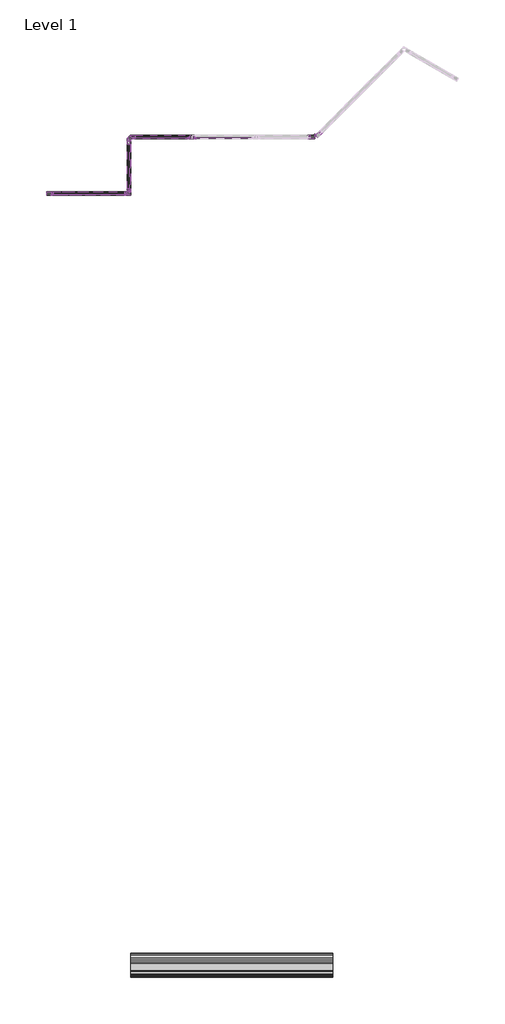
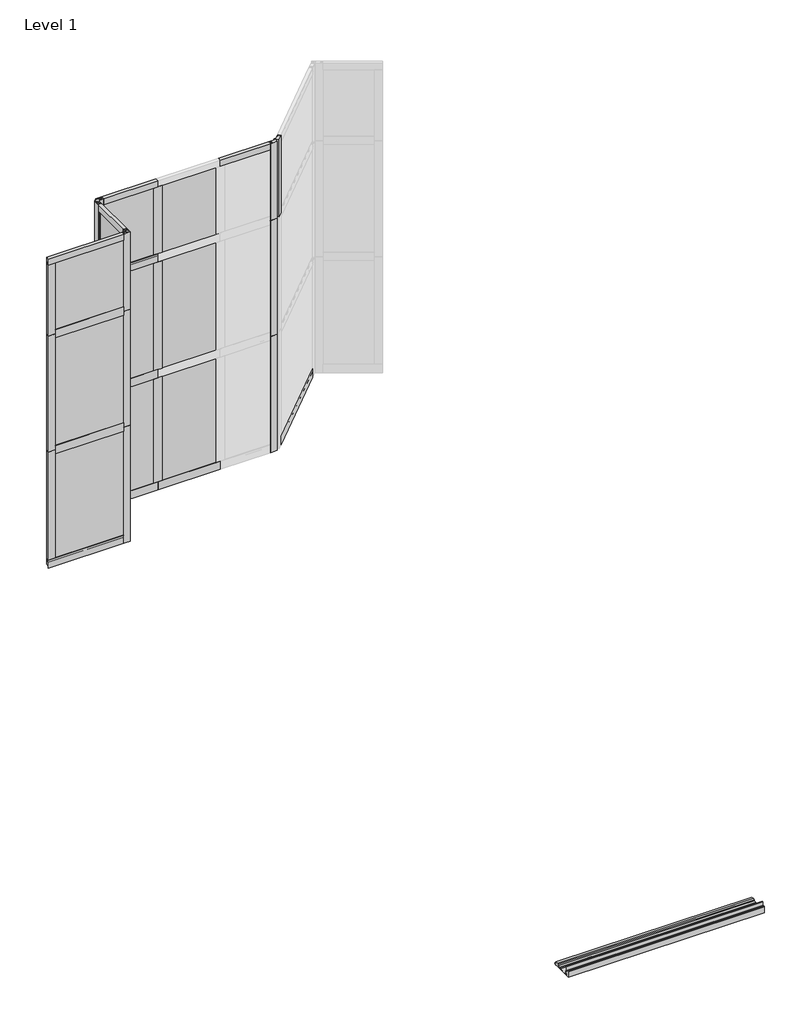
# One storey, part 1 of 2: 36 members, 13 plates.
"""IFC4 building model written with IfcOpenShell, lengths in millimetres."""

from ifc_helpers import new_model, si_unit, origin, place, context, project, spatial, transform, mapped, element, save
from components import rectangular_mullion_64176b1e, rectangular_mullion_0f93f0b6, rectangular_mullion_71dfe0ef, rectangular_mullion_2e643e02, rectangular_mullion_dccfdf45, rectangular_mullion_quickpanel_absolute_general_horizontal_ecc8f6d4, rectangular_mullion_quickpanel_absolute_general_horizontal_9559737d, rectangular_mullion_quickpanel_absolute_general_horizontal_3d351512, rectangular_mullion_quickpanel_absolute_general_horizontal_ca4b5e77, rectangular_mullion_quickpanel_absolute_general_horizontal_192f8292, rectangular_mullion_quickpanel_absolute_general_horizontal_1130ff88, rectangular_mullion_quickpanel_absolute_general_horizontal_bc66b378, rectangular_mullion_quickpanel_absolute_general_horizontal_31412796, rectangular_mullion_quickpanel_absolute_inside_corner_trim_4e34491d, rectangular_mullion_quickpanel_absolute_inside_corner_trim_36ff3354, rectangular_mullion_quickpanel_absolute_inside_corner_trim_136b32a6, rectangular_mullion_quickpanel_absolute_outside_corner_trim_44ce5f77, rectangular_mullion_quickpanel_absolute_outside_corner_trim_5e5925ea, rectangular_mullion_quickpanel_absolute_outside_corner_trim_b60b09aa, rectangular_mullion_quickpanel_absolute_outside_corner_trim_eb6b40db, rectangular_mullion_quickpanel_absolute_outside_corner_trim_54773243, rectangular_mullion_quickpanel_absolute_outside_corner_trim_e17033c3, rectangular_mullion_quickpanel_absolute_perforated_soffit_d645d22b, rectangular_mullion_quickpanel_absolute_soffit_termination_b88b2211, rectangular_mullion_quickpanel_absolute_soffit_termination_9e7e0100, rectangular_mullion_quickpanel_absolute_soffit_termination_cf8f7efe, rectangular_mullion_quickpanel_absolute_soffit_termination_899e9dfb, rectangular_mullion_quickpanel_absolute_soffit_termination_206f8a84, rectangular_mullion_quickpanel_absolute_vertical_main_wall_8224364b, rectangular_mullion_quickpanel_absolute_vertical_main_wall_ff86f56e, rectangular_mullion_quickpanel_absolute_vertical_termination_5774e4c7, rectangular_mullion_quickpanel_absolute_vertical_termination_4b9c5ec9, rectangular_mullion_quickpanel_absolute_vertical_termination_3a699df9, quickpanel_4mm_acm_panel_4mm_acm_d2320506, quickpanel_4mm_acm_panel_4mm_acm_03b4451d, quickpanel_4mm_acm_panel_4mm_acm_35878509, quickpanel_4mm_acm_panel_4mm_acm_83a7dec8, quickpanel_4mm_acm_panel_4mm_acm_2b135999, quickpanel_4mm_acm_panel_4mm_acm_ec2d5cac, quickpanel_4mm_acm_panel_4mm_acm_bf85fa8f, quickpanel_4mm_acm_panel_4mm_acm_0c18de2a, quickpanel_4mm_acm_panel_4mm_acm_73361369, quickpanel_4mm_acm_panel_4mm_acm_ccc70f18, quickpanel_4mm_acm_panel_4mm_acm_afee9873, quickpanel_4mm_acm_panel_4mm_acm_e8283b51, quickpanel_perforated_soffit_strip_qp_25s_perforated_soffit_2bb89925

model = new_model("IFC4")

# Units and contexts
model_context = context("Model", 3, world=origin())
ifc_project = project(units=[si_unit("LENGTHUNIT", "METRE", prefix="MILLI")], contexts=[model_context])

# Site, building, storey
site = spatial("IfcSite", under=ifc_project)
building = spatial("IfcBuilding", under=site)
storey = spatial("IfcBuildingStorey", under=building, Name="Level 1", Elevation=0.0)

# Members
placement = place(None, origin())
rectangular_mullion_shape = rectangular_mullion_64176b1e(model_context)
element("IfcMember", 1, ObjectType="Rectangular Mullion : QuickPanel-Absolute_Multi-Angle-Outside-Corner-Trim-Left", at=placement, inside=storey, context=model_context, shape_type="MappedRepresentation", body=[
    mapped(rectangular_mullion_shape, transform((-497.1888824, 1940.7852714, 2032.0), x_axis=(-0.7071067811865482, -0.7071067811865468, 0.0), y_axis=(0.7071067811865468, -0.7071067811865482, 0.0), z_axis=(0.0, 0.0, 1.0))),
])
rectangular_mullion_2_shape = rectangular_mullion_0f93f0b6(model_context)
element("IfcMember", 2, ObjectType="Rectangular Mullion : QuickPanel-Absolute_Multi-Angle-Outside-Corner-Trim-Right", at=placement, inside=storey, context=model_context, shape_type="MappedRepresentation", body=[
    mapped(rectangular_mullion_2_shape, transform((-497.6661056, 1940.610475, 0.0), x_axis=(1.0, 0.0, 0.0), y_axis=(0.0, -1.0, 0.0), z_axis=(0.0, 0.0, -1.0))),
])
rectangular_mullion_3_shape = rectangular_mullion_71dfe0ef(model_context)
element("IfcMember", 3, ObjectType="Rectangular Mullion : QuickPanel-Absolute_Multi-Angle-Outside-Corner-Trim-Right", at=placement, inside=storey, context=model_context, shape_type="MappedRepresentation", body=[
    mapped(rectangular_mullion_3_shape, transform((-497.6661056, 1940.610475, 763.2962426), x_axis=(1.0, 0.0, 0.0), y_axis=(0.0, -1.0, 0.0), z_axis=(0.0, 0.0, -1.0))),
])
rectangular_mullion_4_shape = rectangular_mullion_2e643e02(model_context)
element("IfcMember", 4, ObjectType="Rectangular Mullion : QuickPanel-Absolute_Multi-Angle-Outside-Corner-Trim-Right", at=placement, inside=storey, context=model_context, shape_type="MappedRepresentation", body=[
    mapped(rectangular_mullion_4_shape, transform((-497.6661056, 1940.610475, 1525.2962426), x_axis=(1.0, 0.0, 0.0), y_axis=(0.0, -1.0, 0.0), z_axis=(0.0, 0.0, -1.0))),
])
rectangular_mullion_5_shape = rectangular_mullion_dccfdf45(model_context)
element("IfcMember", 5, ObjectType="Rectangular Mullion : QuickPanel-Absolute_Projecting-Window-Jamb-Trim-Right", at=placement, inside=storey, context=model_context, shape_type="MappedRepresentation", body=[
    mapped(rectangular_mullion_5_shape, transform((-1243.2812701, 1940.610475, 791.7293373), x_axis=(1.0, 0.0, 0.0), y_axis=(0.0, -1.0, 0.0), z_axis=(0.0, 0.0, -1.0))),
])
rectangular_mullion_quickpanel_absolute_general_horizontal_shape = rectangular_mullion_quickpanel_absolute_general_horizontal_ecc8f6d4(model_context)
element("IfcMember", 6, ObjectType="Rectangular Mullion : QuickPanel-Absolute_General-Horizontal-Trim", at=placement, inside=storey, context=model_context, shape_type="MappedRepresentation", body=[
    mapped(rectangular_mullion_quickpanel_absolute_general_horizontal_shape, transform((-464.1603732, 1973.8137806, 0.0), x_axis=(0.0, 0.0, -1.0), y_axis=(0.7071067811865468, -0.7071067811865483, 0.0), z_axis=(-0.7071067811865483, -0.7071067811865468, 0.0))),
])
rectangular_mullion_quickpanel_absolute_general_horizontal_2_shape = rectangular_mullion_quickpanel_absolute_general_horizontal_9559737d(model_context)
element("IfcMember", 7, ObjectType="Rectangular Mullion : QuickPanel-Absolute_General-Horizontal-Trim", at=placement, inside=storey, context=model_context, shape_type="MappedRepresentation", body=[
    mapped(rectangular_mullion_quickpanel_absolute_general_horizontal_2_shape, transform((-1581.6698491, 1940.610475, 0.0), x_axis=(0.0, 0.0, -1.0), y_axis=(0.0, -1.0, 0.0), z_axis=(-1.0, 0.0, 0.0))),
])
rectangular_mullion_quickpanel_absolute_general_horizontal_3_shape = rectangular_mullion_quickpanel_absolute_general_horizontal_3d351512(model_context)
element("IfcMember", 8, ObjectType="Rectangular Mullion : QuickPanel-Absolute_General-Horizontal-Trim", at=placement, inside=storey, context=model_context, shape_type="MappedRepresentation", body=[
    mapped(rectangular_mullion_quickpanel_absolute_general_horizontal_3_shape, transform((-1243.2812701, 1940.610475, 763.2962426), x_axis=(0.0, 0.0, 1.0), y_axis=(0.0, -1.0, 0.0), z_axis=(1.0, 0.0, 0.0))),
])
element("IfcMember", 9, ObjectType="Rectangular Mullion : QuickPanel-Absolute_General-Horizontal-Trim", at=placement, inside=storey, context=model_context, shape_type="MappedRepresentation", body=[
    mapped(rectangular_mullion_quickpanel_absolute_general_horizontal_3_shape, transform((-1243.2812701, 1940.610475, 1525.2962426), x_axis=(0.0, 0.0, 1.0), y_axis=(0.0, -1.0, 0.0), z_axis=(1.0, 0.0, 0.0))),
])
rectangular_mullion_quickpanel_absolute_general_horizontal_4_shape = rectangular_mullion_quickpanel_absolute_general_horizontal_ca4b5e77(model_context)
element("IfcMember", 10, ObjectType="Rectangular Mullion : QuickPanel-Absolute_General-Horizontal-Trim", at=placement, inside=storey, context=model_context, shape_type="MappedRepresentation", body=[
    mapped(rectangular_mullion_quickpanel_absolute_general_horizontal_4_shape, transform((-1243.2812701, 1940.610475, 0.0), x_axis=(0.0, 0.0, -1.0), y_axis=(0.0, -1.0, 0.0), z_axis=(-1.0, 0.0, 0.0))),
])
rectangular_mullion_quickpanel_absolute_general_horizontal_5_shape = rectangular_mullion_quickpanel_absolute_general_horizontal_192f8292(model_context)
element("IfcMember", 11, ObjectType="Rectangular Mullion : QuickPanel-Absolute_General-Horizontal-Trim", at=placement, inside=storey, context=model_context, shape_type="MappedRepresentation", body=[
    mapped(rectangular_mullion_quickpanel_absolute_general_horizontal_5_shape, transform((-1652.6092631, 1599.3797292, 0.0), x_axis=(0.0, 0.0, -1.0), y_axis=(0.0, 1.0, 0.0), z_axis=(1.0, 0.0, 0.0))),
])
rectangular_mullion_quickpanel_absolute_general_horizontal_6_shape = rectangular_mullion_quickpanel_absolute_general_horizontal_1130ff88(model_context)
element("IfcMember", 12, ObjectType="Rectangular Mullion : QuickPanel-Absolute_General-Horizontal-Trim", at=placement, inside=storey, context=model_context, shape_type="MappedRepresentation", body=[
    mapped(rectangular_mullion_quickpanel_absolute_general_horizontal_6_shape, transform((-2078.9781647, 1599.3797292, 763.2962426), x_axis=(0.0, 0.0, 1.0), y_axis=(0.0, 1.0, 0.0), z_axis=(-1.0, 0.0, 0.0))),
])
element("IfcMember", 13, ObjectType="Rectangular Mullion : QuickPanel-Absolute_General-Horizontal-Trim", at=placement, inside=storey, context=model_context, shape_type="MappedRepresentation", body=[
    mapped(rectangular_mullion_quickpanel_absolute_general_horizontal_6_shape, transform((-2078.9781647, 1599.3797292, 1525.2962426), x_axis=(0.0, 0.0, 1.0), y_axis=(0.0, 1.0, 0.0), z_axis=(-1.0, 0.0, 0.0))),
])
rectangular_mullion_quickpanel_absolute_general_horizontal_7_shape = rectangular_mullion_quickpanel_absolute_general_horizontal_bc66b378(model_context)
element("IfcMember", 14, ObjectType="Rectangular Mullion : QuickPanel-Absolute_General-Horizontal-Trim", at=placement, inside=storey, context=model_context, shape_type="MappedRepresentation", body=[
    mapped(rectangular_mullion_quickpanel_absolute_general_horizontal_7_shape, transform((-1625.8597137, 1626.1292786, 0.0), x_axis=(0.0, 0.0, -1.0), y_axis=(1.0, 0.0, 0.0), z_axis=(0.0, -1.0, 0.0))),
])
rectangular_mullion_quickpanel_absolute_general_horizontal_8_shape = rectangular_mullion_quickpanel_absolute_general_horizontal_31412796(model_context)
element("IfcMember", 15, ObjectType="Rectangular Mullion : QuickPanel-Absolute_General-Horizontal-Trim", at=placement, inside=storey, context=model_context, shape_type="MappedRepresentation", body=[
    mapped(rectangular_mullion_quickpanel_absolute_general_horizontal_8_shape, transform((-1625.8597137, 1896.4194406, 763.2962426), x_axis=(0.0, 0.0, 1.0), y_axis=(1.0, 0.0, 0.0), z_axis=(0.0, 1.0, 0.0))),
])
element("IfcMember", 16, ObjectType="Rectangular Mullion : QuickPanel-Absolute_General-Horizontal-Trim", at=placement, inside=storey, context=model_context, shape_type="MappedRepresentation", body=[
    mapped(rectangular_mullion_quickpanel_absolute_general_horizontal_8_shape, transform((-1625.8597137, 1896.4194406, 1525.2962426), x_axis=(0.0, 0.0, 1.0), y_axis=(1.0, 0.0, 0.0), z_axis=(0.0, 1.0, 0.0))),
])
rectangular_mullion_quickpanel_absolute_inside_corner_trim_shape = rectangular_mullion_quickpanel_absolute_inside_corner_trim_4e34491d(model_context)
element("IfcMember", 17, ObjectType="Rectangular Mullion : QuickPanel-Absolute_Inside-Corner-Trim-Left", at=placement, inside=storey, context=model_context, shape_type="MappedRepresentation", body=[
    mapped(rectangular_mullion_quickpanel_absolute_inside_corner_trim_shape, transform((-1634.3985952, 1940.610475, 2032.0), x_axis=(-1.0, 0.0, 0.0), y_axis=(0.0, -1.0, 0.0), z_axis=(0.0, 0.0, 1.0))),
])
rectangular_mullion_quickpanel_absolute_inside_corner_trim_2_shape = rectangular_mullion_quickpanel_absolute_inside_corner_trim_36ff3354(model_context)
element("IfcMember", 18, ObjectType="Rectangular Mullion : QuickPanel-Absolute_Inside-Corner-Trim-Left", at=placement, inside=storey, context=model_context, shape_type="MappedRepresentation", body=[
    mapped(rectangular_mullion_quickpanel_absolute_inside_corner_trim_2_shape, transform((-1634.3985952, 1940.610475, 763.2962426), x_axis=(-1.0, 0.0, 0.0), y_axis=(0.0, -1.0, 0.0), z_axis=(0.0, 0.0, 1.0))),
])
rectangular_mullion_quickpanel_absolute_inside_corner_trim_3_shape = rectangular_mullion_quickpanel_absolute_inside_corner_trim_136b32a6(model_context)
element("IfcMember", 19, ObjectType="Rectangular Mullion : QuickPanel-Absolute_Inside-Corner-Trim-Left", at=placement, inside=storey, context=model_context, shape_type="MappedRepresentation", body=[
    mapped(rectangular_mullion_quickpanel_absolute_inside_corner_trim_3_shape, transform((-1634.3985952, 1940.610475, 1525.2962426), x_axis=(-1.0, 0.0, 0.0), y_axis=(0.0, -1.0, 0.0), z_axis=(0.0, 0.0, 1.0))),
])
rectangular_mullion_quickpanel_absolute_outside_corner_trim_shape = rectangular_mullion_quickpanel_absolute_outside_corner_trim_44ce5f77(model_context)
element("IfcMember", 20, ObjectType="Rectangular Mullion : QuickPanel-Absolute_Outside-Corner-Trim-Left", at=placement, inside=storey, context=model_context, shape_type="MappedRepresentation", body=[
    mapped(rectangular_mullion_quickpanel_absolute_outside_corner_trim_shape, transform((-1613.679341, 1599.3797292, 2032.0), x_axis=(1.0, 0.0, 0.0), y_axis=(0.0, 1.0, 0.0), z_axis=(0.0, 0.0, 1.0))),
])
rectangular_mullion_quickpanel_absolute_outside_corner_trim_2_shape = rectangular_mullion_quickpanel_absolute_outside_corner_trim_5e5925ea(model_context)
element("IfcMember", 21, ObjectType="Rectangular Mullion : QuickPanel-Absolute_Outside-Corner-Trim-Left", at=placement, inside=storey, context=model_context, shape_type="MappedRepresentation", body=[
    mapped(rectangular_mullion_quickpanel_absolute_outside_corner_trim_2_shape, transform((-1613.679341, 1599.3797292, 763.2962426), x_axis=(1.0, 0.0, 0.0), y_axis=(0.0, 1.0, 0.0), z_axis=(0.0, 0.0, 1.0))),
])
rectangular_mullion_quickpanel_absolute_outside_corner_trim_3_shape = rectangular_mullion_quickpanel_absolute_outside_corner_trim_b60b09aa(model_context)
element("IfcMember", 22, ObjectType="Rectangular Mullion : QuickPanel-Absolute_Outside-Corner-Trim-Left", at=placement, inside=storey, context=model_context, shape_type="MappedRepresentation", body=[
    mapped(rectangular_mullion_quickpanel_absolute_outside_corner_trim_3_shape, transform((-1613.679341, 1599.3797292, 1525.2962426), x_axis=(1.0, 0.0, 0.0), y_axis=(0.0, 1.0, 0.0), z_axis=(0.0, 0.0, 1.0))),
])
rectangular_mullion_quickpanel_absolute_outside_corner_trim_4_shape = rectangular_mullion_quickpanel_absolute_outside_corner_trim_eb6b40db(model_context)
element("IfcMember", 23, ObjectType="Rectangular Mullion : QuickPanel-Absolute_Outside-Corner-Trim-Left", at=placement, inside=storey, context=model_context, shape_type="MappedRepresentation", body=[
    mapped(rectangular_mullion_quickpanel_absolute_outside_corner_trim_4_shape, transform((-1625.8597137, 1587.1993565, 2032.0), x_axis=(0.0, -1.0, 0.0), y_axis=(1.0, 0.0, 0.0), z_axis=(0.0, 0.0, 1.0))),
])
rectangular_mullion_quickpanel_absolute_outside_corner_trim_5_shape = rectangular_mullion_quickpanel_absolute_outside_corner_trim_54773243(model_context)
element("IfcMember", 24, ObjectType="Rectangular Mullion : QuickPanel-Absolute_Outside-Corner-Trim-Left", at=placement, inside=storey, context=model_context, shape_type="MappedRepresentation", body=[
    mapped(rectangular_mullion_quickpanel_absolute_outside_corner_trim_5_shape, transform((-1625.8597137, 1587.1993565, 763.2962426), x_axis=(0.0, -1.0, 0.0), y_axis=(1.0, 0.0, 0.0), z_axis=(0.0, 0.0, 1.0))),
])
rectangular_mullion_quickpanel_absolute_outside_corner_trim_6_shape = rectangular_mullion_quickpanel_absolute_outside_corner_trim_e17033c3(model_context)
element("IfcMember", 25, ObjectType="Rectangular Mullion : QuickPanel-Absolute_Outside-Corner-Trim-Left", at=placement, inside=storey, context=model_context, shape_type="MappedRepresentation", body=[
    mapped(rectangular_mullion_quickpanel_absolute_outside_corner_trim_6_shape, transform((-1625.8597137, 1587.1993565, 1525.2962426), x_axis=(0.0, -1.0, 0.0), y_axis=(1.0, 0.0, 0.0), z_axis=(0.0, 0.0, 1.0))),
])
rectangular_mullion_quickpanel_absolute_perforated_soffit_shape = rectangular_mullion_quickpanel_absolute_perforated_soffit_d645d22b(model_context)
element("IfcMember", 26, ObjectType="Rectangular Mullion : QuickPanel-Absolute_Perforated-Soffit-Return", at=placement, inside=storey, context=model_context, shape_type="MappedRepresentation", body=[
    mapped(rectangular_mullion_quickpanel_absolute_perforated_soffit_shape, transform((-394.479341, -3134.3872484, 0.0), x_axis=(0.0, -1.0, 0.0), y_axis=(0.0, 0.0, -1.0), z_axis=(1.0, 0.0, 0.0))),
])
rectangular_mullion_quickpanel_absolute_soffit_termination_shape = rectangular_mullion_quickpanel_absolute_soffit_termination_b88b2211(model_context)
element("IfcMember", 27, ObjectType="Rectangular Mullion : QuickPanel-Absolute_Soffit-Termination", at=placement, inside=storey, context=model_context, shape_type="MappedRepresentation", body=[
    mapped(rectangular_mullion_quickpanel_absolute_soffit_termination_shape, transform((-1613.679341, -2987.7339984, 0.0), x_axis=(0.0, 1.0, 0.0), y_axis=(0.0, 0.0, -1.0), z_axis=(-1.0, 0.0, 0.0))),
])
rectangular_mullion_quickpanel_absolute_soffit_termination_2_shape = rectangular_mullion_quickpanel_absolute_soffit_termination_9e7e0100(model_context)
element("IfcMember", 28, ObjectType="Rectangular Mullion : QuickPanel-Absolute_Soffit-Termination-Top", at=placement, inside=storey, context=model_context, shape_type="MappedRepresentation", body=[
    mapped(rectangular_mullion_quickpanel_absolute_soffit_termination_2_shape, transform((-544.3754712, 1940.610475, 2032.0), x_axis=(0.0, 0.0, 1.0), y_axis=(0.0, -1.0, 0.0), z_axis=(1.0, 0.0, 0.0))),
])
rectangular_mullion_quickpanel_absolute_soffit_termination_3_shape = rectangular_mullion_quickpanel_absolute_soffit_termination_cf8f7efe(model_context)
element("IfcMember", 29, ObjectType="Rectangular Mullion : QuickPanel-Absolute_Soffit-Termination-Top", at=placement, inside=storey, context=model_context, shape_type="MappedRepresentation", body=[
    mapped(rectangular_mullion_quickpanel_absolute_soffit_termination_3_shape, transform((-1243.2812701, 1940.610475, 2032.0), x_axis=(0.0, 0.0, 1.0), y_axis=(0.0, -1.0, 0.0), z_axis=(1.0, 0.0, 0.0))),
])
rectangular_mullion_quickpanel_absolute_soffit_termination_4_shape = rectangular_mullion_quickpanel_absolute_soffit_termination_899e9dfb(model_context)
element("IfcMember", 30, ObjectType="Rectangular Mullion : QuickPanel-Absolute_Soffit-Termination-Top", at=placement, inside=storey, context=model_context, shape_type="MappedRepresentation", body=[
    mapped(rectangular_mullion_quickpanel_absolute_soffit_termination_4_shape, transform((-2121.679341, 1599.3797292, 2032.0), x_axis=(0.0, 0.0, 1.0), y_axis=(0.0, 1.0, 0.0), z_axis=(-1.0, 0.0, 0.0))),
])
rectangular_mullion_quickpanel_absolute_soffit_termination_5_shape = rectangular_mullion_quickpanel_absolute_soffit_termination_206f8a84(model_context)
element("IfcMember", 31, ObjectType="Rectangular Mullion : QuickPanel-Absolute_Soffit-Termination-Top", at=placement, inside=storey, context=model_context, shape_type="MappedRepresentation", body=[
    mapped(rectangular_mullion_quickpanel_absolute_soffit_termination_5_shape, transform((-1625.8597137, 1896.4194406, 2032.0), x_axis=(0.0, 0.0, 1.0), y_axis=(1.0, 0.0, 0.0), z_axis=(0.0, 1.0, 0.0))),
])
rectangular_mullion_quickpanel_absolute_vertical_main_wall_shape = rectangular_mullion_quickpanel_absolute_vertical_main_wall_8224364b(model_context)
element("IfcMember", 32, ObjectType="Rectangular Mullion : QuickPanel-Absolute_Vertical-Main-Wall-Trim", at=placement, inside=storey, context=model_context, shape_type="MappedRepresentation", body=[
    mapped(rectangular_mullion_quickpanel_absolute_vertical_main_wall_shape, transform((-1243.2812701, 1940.610475, 53.975), x_axis=(1.0, 0.0, 0.0), y_axis=(0.0, -1.0, 0.0), z_axis=(0.0, 0.0, -1.0))),
])
rectangular_mullion_quickpanel_absolute_vertical_main_wall_2_shape = rectangular_mullion_quickpanel_absolute_vertical_main_wall_ff86f56e(model_context)
element("IfcMember", 33, ObjectType="Rectangular Mullion : QuickPanel-Absolute_Vertical-Main-Wall-Trim", at=placement, inside=storey, context=model_context, shape_type="MappedRepresentation", body=[
    mapped(rectangular_mullion_quickpanel_absolute_vertical_main_wall_2_shape, transform((-1243.2812701, 1940.610475, 1553.6859501), x_axis=(1.0, 0.0, 0.0), y_axis=(0.0, -1.0, 0.0), z_axis=(0.0, 0.0, -1.0))),
])
rectangular_mullion_quickpanel_absolute_vertical_termination_shape = rectangular_mullion_quickpanel_absolute_vertical_termination_5774e4c7(model_context)
element("IfcMember", 34, ObjectType="Rectangular Mullion : QuickPanel-Absolute_Vertical-Termination-Trim-Right", at=placement, inside=storey, context=model_context, shape_type="MappedRepresentation", body=[
    mapped(rectangular_mullion_quickpanel_absolute_vertical_termination_shape, transform((-2121.679341, 1599.3797292, 53.975), x_axis=(-1.0, 0.0, 0.0), y_axis=(0.0, 1.0, 0.0), z_axis=(0.0, 0.0, -1.0))),
])
rectangular_mullion_quickpanel_absolute_vertical_termination_2_shape = rectangular_mullion_quickpanel_absolute_vertical_termination_4b9c5ec9(model_context)
element("IfcMember", 35, ObjectType="Rectangular Mullion : QuickPanel-Absolute_Vertical-Termination-Trim-Right", at=placement, inside=storey, context=model_context, shape_type="MappedRepresentation", body=[
    mapped(rectangular_mullion_quickpanel_absolute_vertical_termination_2_shape, transform((-2121.679341, 1599.3797292, 763.2962426), x_axis=(-1.0, 0.0, 0.0), y_axis=(0.0, 1.0, 0.0), z_axis=(0.0, 0.0, -1.0))),
])
rectangular_mullion_quickpanel_absolute_vertical_termination_3_shape = rectangular_mullion_quickpanel_absolute_vertical_termination_3a699df9(model_context)
element("IfcMember", 36, ObjectType="Rectangular Mullion : QuickPanel-Absolute_Vertical-Termination-Trim-Right", at=placement, inside=storey, context=model_context, shape_type="MappedRepresentation", body=[
    mapped(rectangular_mullion_quickpanel_absolute_vertical_termination_3_shape, transform((-2121.679341, 1599.3797292, 1525.2962426), x_axis=(-1.0, 0.0, 0.0), y_axis=(0.0, 1.0, 0.0), z_axis=(0.0, 0.0, -1.0))),
])

# Plates
quickpanel_4mm_acm_panel_4mm_acm_shape = quickpanel_4mm_acm_panel_4mm_acm_d2320506(model_context)
element("IfcPlate", 37, ObjectType="QuickPanel_4mm-ACM : Panel_4mm-ACM", at=placement, inside=storey, context=model_context, shape_type="MappedRepresentation", body=[
    mapped(quickpanel_4mm_acm_panel_4mm_acm_shape, transform((-1430.3741062, 1940.610475, 1539.9984168), x_axis=(1.0, 0.0, 0.0), y_axis=(0.0, 1.0, 0.0), z_axis=(0.0, 0.0, 1.0))),
])
quickpanel_4mm_acm_panel_4mm_acm_2_shape = quickpanel_4mm_acm_panel_4mm_acm_03b4451d(model_context)
element("IfcPlate", 38, ObjectType="QuickPanel_4mm-ACM : Panel_4mm-ACM", at=placement, inside=storey, context=model_context, shape_type="MappedRepresentation", body=[
    mapped(quickpanel_4mm_acm_panel_4mm_acm_2_shape, transform((-1049.3741061, 1940.610475, 40.2874667), x_axis=(1.0, 0.0, 0.0), y_axis=(0.0, 1.0, 0.0), z_axis=(0.0, 0.0, 1.0))),
])
quickpanel_4mm_acm_panel_4mm_acm_3_shape = quickpanel_4mm_acm_panel_4mm_acm_35878509(model_context)
element("IfcPlate", 39, ObjectType="QuickPanel_4mm-ACM : Panel_4mm-ACM", at=placement, inside=storey, context=model_context, shape_type="MappedRepresentation", body=[
    mapped(quickpanel_4mm_acm_panel_4mm_acm_3_shape, transform((-1430.3741062, 1940.610475, 40.2874667), x_axis=(1.0, 0.0, 0.0), y_axis=(0.0, 1.0, 0.0), z_axis=(0.0, 0.0, 1.0))),
])
quickpanel_4mm_acm_panel_4mm_acm_4_shape = quickpanel_4mm_acm_panel_4mm_acm_83a7dec8(model_context)
element("IfcPlate", 40, ObjectType="QuickPanel_4mm-ACM : Panel_4mm-ACM", at=placement, inside=storey, context=model_context, shape_type="MappedRepresentation", body=[
    mapped(quickpanel_4mm_acm_panel_4mm_acm_4_shape, transform((-1436.3449791, 1940.610475, 777.9984168), x_axis=(1.0, 0.0, 0.0), y_axis=(0.0, 1.0, 0.0), z_axis=(0.0, 0.0, 1.0))),
])
quickpanel_4mm_acm_panel_4mm_acm_5_shape = quickpanel_4mm_acm_panel_4mm_acm_2b135999(model_context)
element("IfcPlate", 41, ObjectType="QuickPanel_4mm-ACM : Panel_4mm-ACM", at=placement, inside=storey, context=model_context, shape_type="MappedRepresentation", body=[
    mapped(quickpanel_4mm_acm_panel_4mm_acm_5_shape, transform((-1049.3741061, 1940.610475, 778.0418039), x_axis=(1.0, 0.0, 0.0), y_axis=(0.0, 1.0, 0.0), z_axis=(0.0, 0.0, 1.0))),
])
quickpanel_4mm_acm_panel_4mm_acm_6_shape = quickpanel_4mm_acm_panel_4mm_acm_ec2d5cac(model_context)
element("IfcPlate", 42, ObjectType="QuickPanel_4mm-ACM : Panel_4mm-ACM", at=placement, inside=storey, context=model_context, shape_type="MappedRepresentation", body=[
    mapped(quickpanel_4mm_acm_panel_4mm_acm_6_shape, transform((-1049.3741061, 1940.610475, 1538.2373342), x_axis=(1.0, 0.0, 0.0), y_axis=(0.0, 1.0, 0.0), z_axis=(0.0, 0.0, 1.0))),
])
quickpanel_4mm_acm_panel_4mm_acm_7_shape = quickpanel_4mm_acm_panel_4mm_acm_bf85fa8f(model_context)
element("IfcPlate", 43, ObjectType="QuickPanel_4mm-ACM : Panel_4mm-ACM", at=placement, inside=storey, context=model_context, shape_type="MappedRepresentation", body=[
    mapped(quickpanel_4mm_acm_panel_4mm_acm_7_shape, transform((-1860.8272081, 1599.3797292, 40.2874667), x_axis=(-1.0, 0.0, 0.0), y_axis=(0.0, -1.0, 0.0), z_axis=(0.0, 0.0, 1.0))),
])
quickpanel_4mm_acm_panel_4mm_acm_8_shape = quickpanel_4mm_acm_panel_4mm_acm_0c18de2a(model_context)
element("IfcPlate", 44, ObjectType="QuickPanel_4mm-ACM : Panel_4mm-ACM", at=placement, inside=storey, context=model_context, shape_type="MappedRepresentation", body=[
    mapped(quickpanel_4mm_acm_panel_4mm_acm_8_shape, transform((-1860.8272081, 1599.3797292, 777.9984168), x_axis=(-1.0, 0.0, 0.0), y_axis=(0.0, -1.0, 0.0), z_axis=(0.0, 0.0, 1.0))),
])
quickpanel_4mm_acm_panel_4mm_acm_9_shape = quickpanel_4mm_acm_panel_4mm_acm_73361369(model_context)
element("IfcPlate", 45, ObjectType="QuickPanel_4mm-ACM : Panel_4mm-ACM", at=placement, inside=storey, context=model_context, shape_type="MappedRepresentation", body=[
    mapped(quickpanel_4mm_acm_panel_4mm_acm_9_shape, transform((-1860.8272081, 1599.3797292, 1539.9984168), x_axis=(-1.0, 0.0, 0.0), y_axis=(0.0, -1.0, 0.0), z_axis=(0.0, 0.0, 1.0))),
])
quickpanel_4mm_acm_panel_4mm_acm_10_shape = quickpanel_4mm_acm_panel_4mm_acm_ccc70f18(model_context)
element("IfcPlate", 46, ObjectType="QuickPanel_4mm-ACM : Panel_4mm-ACM", at=placement, inside=storey, context=model_context, shape_type="MappedRepresentation", body=[
    mapped(quickpanel_4mm_acm_panel_4mm_acm_10_shape, transform((-1625.8597137, 1749.4640871, 1539.9984168), x_axis=(0.0, 1.0, 0.0), y_axis=(-1.0, 0.0, 0.0), z_axis=(0.0, 0.0, 1.0))),
])
quickpanel_4mm_acm_panel_4mm_acm_11_shape = quickpanel_4mm_acm_panel_4mm_acm_afee9873(model_context)
element("IfcPlate", 47, ObjectType="QuickPanel_4mm-ACM : Panel_4mm-ACM", at=placement, inside=storey, context=model_context, shape_type="MappedRepresentation", body=[
    mapped(quickpanel_4mm_acm_panel_4mm_acm_11_shape, transform((-1625.8597137, 1749.4640871, 40.2874667), x_axis=(0.0, 1.0, 0.0), y_axis=(-1.0, 0.0, 0.0), z_axis=(0.0, 0.0, 1.0))),
])
quickpanel_4mm_acm_panel_4mm_acm_12_shape = quickpanel_4mm_acm_panel_4mm_acm_e8283b51(model_context)
element("IfcPlate", 48, ObjectType="QuickPanel_4mm-ACM : Panel_4mm-ACM", at=placement, inside=storey, context=model_context, shape_type="MappedRepresentation", body=[
    mapped(quickpanel_4mm_acm_panel_4mm_acm_12_shape, transform((-1625.8597137, 1749.4640871, 777.9984168), x_axis=(0.0, 1.0, 0.0), y_axis=(-1.0, 0.0, 0.0), z_axis=(0.0, 0.0, 1.0))),
])
quickpanel_perforated_soffit_strip_qp_25s_perforated_soffit_shape = quickpanel_perforated_soffit_strip_qp_25s_perforated_soffit_2bb89925(model_context)
element("IfcPlate", 49, ObjectType="QuickPanel_Perforated-Soffit-Strip : QP 25S - Perforated Soffit Plank", at=placement, inside=storey, context=model_context, shape_type="MappedRepresentation", body=[
    mapped(quickpanel_perforated_soffit_strip_qp_25s_perforated_soffit_shape, transform((-1004.079341, -3113.971292, 0.0), x_axis=(1.0, 0.0, 0.0), y_axis=(0.0, 0.0, -1.0), z_axis=(0.0, 1.0, 0.0))),
])

save(model, "model.ifc")
